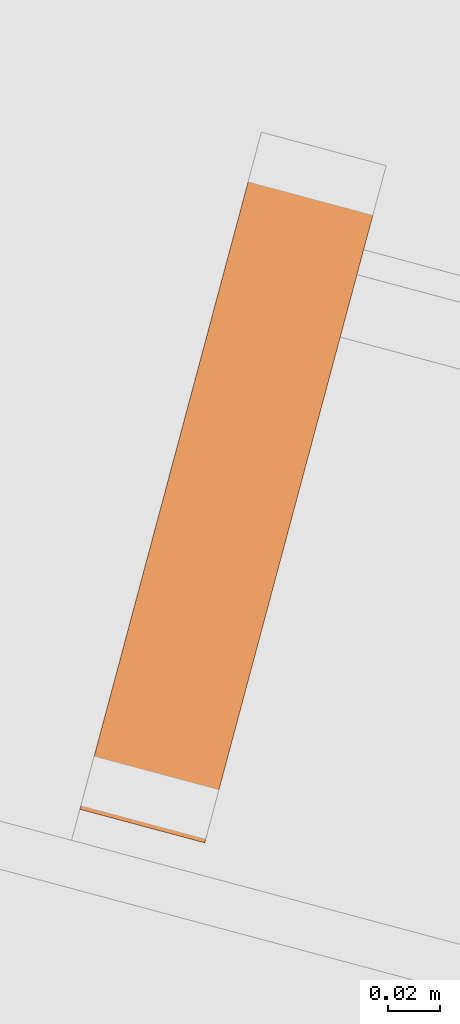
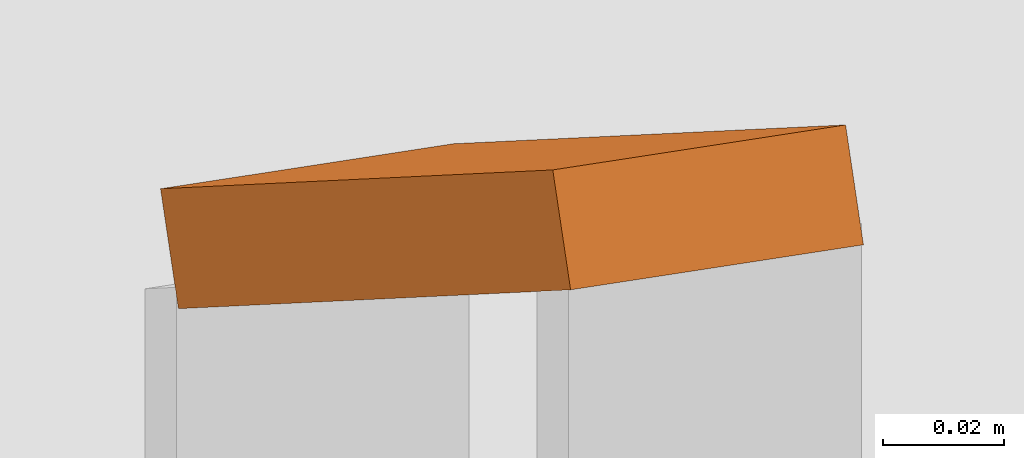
# One storey, part 116 of 167: 1 proxy, 1 element without a shape of its own.
"""IFC2X3 building model written with IfcOpenShell, lengths in millimetres."""

from ifc_helpers import new_model, entity, si_unit, converted_unit, derived_unit, money_unit, direction, frame, origin_with_axes, place, context, subcontext, project, spatial, faceted_brep, source, transform, mapped, material, type_object, type_shapes, element, aggregate, save


model = new_model("IFC2X3")

# Units and contexts
model_context = context("Model", 3, precision=0.01, world=origin_with_axes(), true_north=direction((0.0, 1.0)))
plan_context = context("Plan", 3, precision=0.01, world=origin_with_axes(), true_north=direction((0.0, 1.0)))
body_context = subcontext(model_context, "Body", "Model", "MODEL_VIEW")
ifc_project = project(units=[si_unit("LENGTHUNIT", "METRE", prefix="MILLI"), si_unit("AREAUNIT", "SQUARE_METRE"), si_unit("VOLUMEUNIT", "CUBIC_METRE"), converted_unit("PLANEANGLEUNIT", "DEGREE", entity("IfcPlaneAngleMeasure", 0.0174532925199), si_unit("PLANEANGLEUNIT", "RADIAN"), dimensions=[0, 0, 0, 0, 0, 0, 0]), si_unit("SOLIDANGLEUNIT", "STERADIAN"), money_unit("EUR"), converted_unit("TIMEUNIT", "Year", entity("IfcTimeMeasure", 31556926.0), si_unit("TIMEUNIT", "SECOND"), dimensions=[0, 0, 1, 0, 0, 0, 0]), si_unit("MASSUNIT", "GRAM", prefix="KILO"), si_unit("THERMODYNAMICTEMPERATUREUNIT", "DEGREE_CELSIUS"), si_unit("LUMINOUSINTENSITYUNIT", "LUMEN"), si_unit("ENERGYUNIT", "JOULE", prefix="MEGA"), derived_unit("THERMALCONDUCTANCEUNIT", [(si_unit("POWERUNIT", "WATT"), 1), (si_unit("LENGTHUNIT", "METRE"), -1), (si_unit("THERMODYNAMICTEMPERATUREUNIT", "KELVIN"), -1)]), derived_unit("SPECIFICHEATCAPACITYUNIT", [(si_unit("ENERGYUNIT", "JOULE"), 1), (si_unit("MASSUNIT", "GRAM", prefix="KILO"), -1), (si_unit("THERMODYNAMICTEMPERATUREUNIT", "KELVIN"), -1)]), derived_unit("MASSDENSITYUNIT", [(si_unit("MASSUNIT", "GRAM", prefix="KILO"), 1), (si_unit("VOLUMEUNIT", "CUBIC_METRE"), -1)])], contexts=[model_context, plan_context])

# Site, building, storey
site_placement = place(None, origin_with_axes())
site = spatial("IfcSite", under=ifc_project, at=site_placement, Name="Site", CompositionType="ELEMENT")
building_placement = place(site_placement, origin_with_axes())
building = spatial("IfcBuilding", under=site, at=building_placement, Name="Naam gebouw", CompositionType="ELEMENT")
storey_placement = place(building_placement, origin_with_axes())
storey = spatial("IfcBuildingStorey", under=building, at=storey_placement, Name="Begane grond", CompositionType="ELEMENT", Elevation=0.0)

# Proxies
building_element_proxy_type_1 = type_object("IfcBuildingElementProxyType", Name="Railing Type", PredefinedType="NOTDEFINED")
proxy_1_placement = place(storey_placement, frame((20389.3507244, 24629.7836369, 375.39282431), z_axis=(0.0, 0.0, 1.0), x_axis=(-0.866656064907, -0.498906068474, 0.0)))
proxy_1 = element("IfcBuildingElementProxy", 1, at=proxy_1_placement, inside=storey, type_object=building_element_proxy_type_1, Name="34__Reling-x")
ifc_material = material(Name="Metaal - RVS")
building_element_proxy_type_2 = type_object("IfcBuildingElementProxyType", Name="IfcBuildingElementProxy", PredefinedType="NOTDEFINED")
shared_shape = source(origin_with_axes(), body_context, "Body", "Brep", [
    faceted_brep([(-24.1481456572, 6.47047612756, 1049.29104751), (-27.0923266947, -4.51735709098, 1032.84114419), (-91.7807348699, -245.937783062, 1205.6775254), (-88.8365538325, -234.949949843, 1222.12742872), (24.1481456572, -6.47047612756, 1049.29104751), (21.2039646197, -17.4583093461, 1032.84114419), (-43.4844435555, -258.878735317, 1205.6775254), (-40.540262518, -247.890902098, 1222.12742872)], [[[0, 1, 2, 3]], [[0, 4, 5, 1]], [[1, 5, 6, 2]], [[3, 2, 6, 7]], [[4, 0, 3, 7]], [[5, 4, 7, 6]]]),
])
type_shapes(building_element_proxy_type_2, [shared_shape])
proxy_2_placement = place(proxy_1_placement, frame((4178.73670984, 4002.75303387, 1017.27542632), z_axis=(0.0, 0.0, 1.0), x_axis=(-0.866656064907, 0.498906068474, 0.0)))
proxy_2 = element("IfcBuildingElementProxy", 2, at=proxy_2_placement, type_object=building_element_proxy_type_2, material=ifc_material, Name="__Bovenregel-x", context=body_context, shape_type="MappedRepresentation", body=[
    mapped(shared_shape, transform((32.3442040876, 120.710212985, -1017.27542632))),
])
aggregate(proxy_1, [proxy_2])

save(model, "model.ifc")
